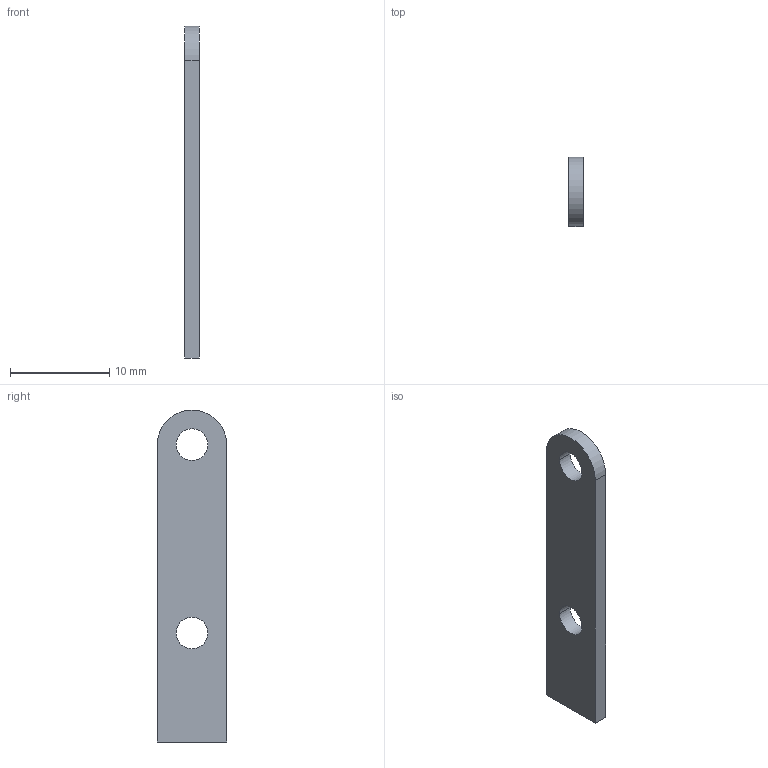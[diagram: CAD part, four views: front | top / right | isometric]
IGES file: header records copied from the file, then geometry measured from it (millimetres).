
Start section: START RECORD GO HERE.
Global section: file name: EL_0700_009(chape Anderson ou Booster).igs; native system: IBM CATIA IGES - CATIA Version 5 Release 19 ; preprocessor: CATIA Version 5 Release 19 ; author: Romain; organization: DESKTOP-JML8TJ6; date: 20181206.212408; units: millimetre
Bounding box: 1.5 x 7 x 33.5 mm (x, y, z)
Surface area: 573.5 mm2 (no closed solid volume)
Topology: 0 solids, 0 shells, 10 faces, 48 edges, 48 vertices
Faces by surface type: plane 5, revolution 5
